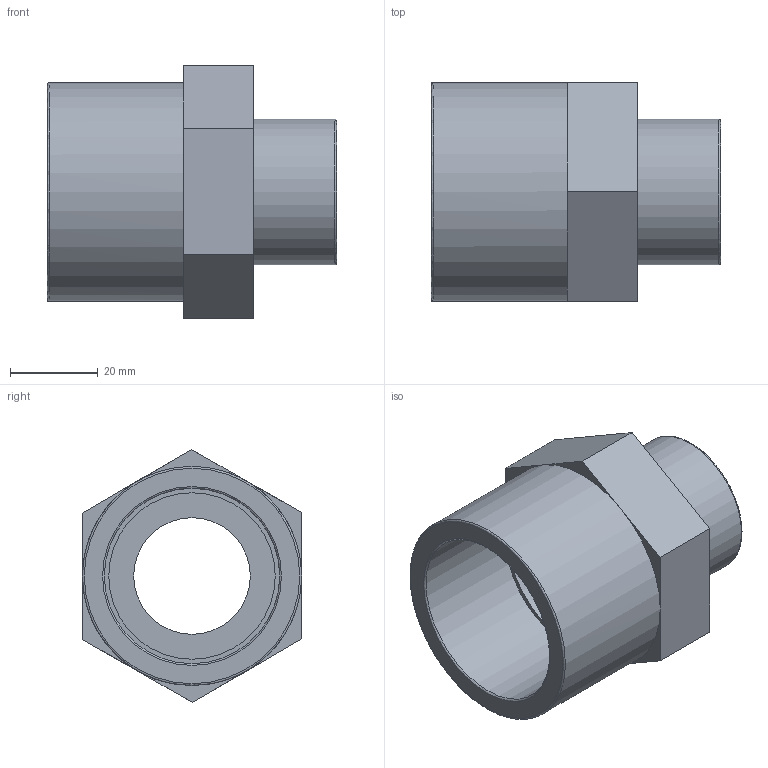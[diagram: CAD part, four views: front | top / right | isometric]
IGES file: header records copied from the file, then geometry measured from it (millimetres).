
Global section: file name: 052202040010.ipt; native system: Autodesk Inventor 2015; preprocessor: unknown; author: KIM; date: 20171207.165440; units: millimetre
Bounding box: 66 x 50.1 x 57.73 mm (x, y, z)
Volume: 47141.1 mm3; surface area: 19989.2 mm2
Topology: 1 solids, 1 shells, 26 faces, 67 edges, 46 vertices
Faces by surface type: plane 17, revolution 7, cylinder 2
Full cylindrical faces by diameter (mm): 33.249 x1, 50 x1
